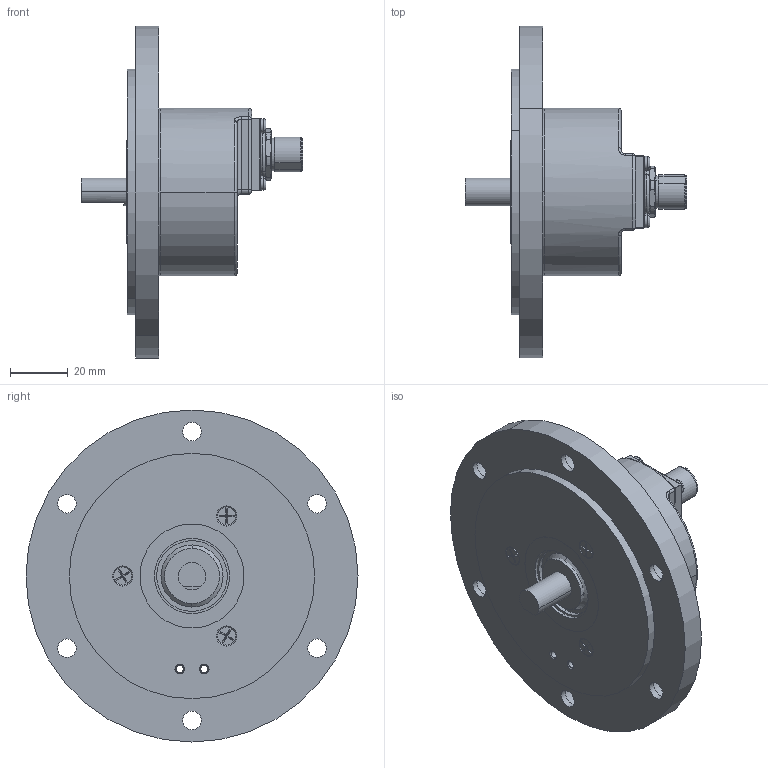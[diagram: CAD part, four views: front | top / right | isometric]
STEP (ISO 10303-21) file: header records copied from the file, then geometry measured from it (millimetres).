
FILE_DESCRIPTION (( 'STEP AP203' ), '1' );
FILE_NAME ('K58I.OXX.XXXXX.XS1E52A.6XAC6.step', '2025-12-08T16:12:49', ( '' ), ( '' ), 'SwSTEP 2.0', 'SolidWorks 2021', '' );
FILE_SCHEMA (( 'CONFIG_CONTROL_DESIGN' ));
Length unit declared in the file: millimetre
Products named in the file (1): K58I.OXX.XXXXX.XS1E52A.6XAC6
Bounding box: 76.86 x 115 x 115 mm (x, y, z)
Surface area: 55036.9 mm2 (no closed solid volume)
Topology: 0 solids, 12 shells, 452 faces, 1073 edges, 677 vertices
Faces by surface type: cylinder 214, plane 145, cone 57, bspline 26, torus 8, sphere 2
Entity records: 14957 total; most frequent: CARTESIAN_POINT 4296, DIRECTION 2344, ORIENTED_EDGE 2106, EDGE_CURVE 1061, AXIS2_PLACEMENT_3D 943, VERTEX_POINT 677, EDGE_LOOP 526, CIRCLE 516
